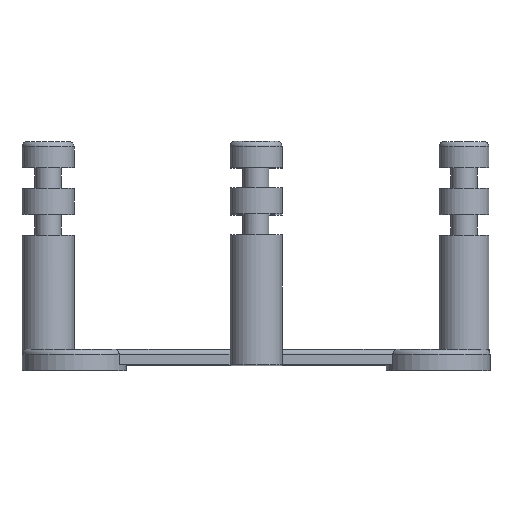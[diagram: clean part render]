
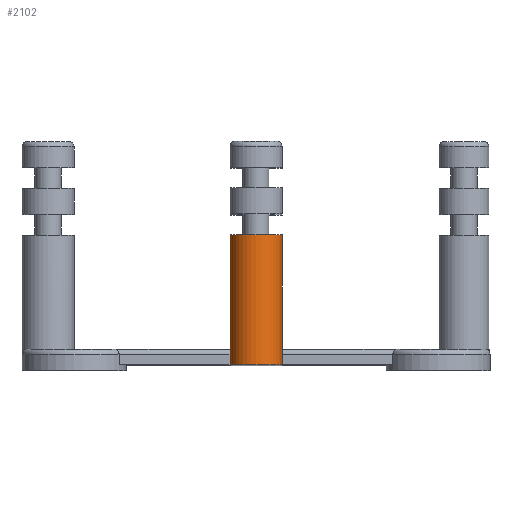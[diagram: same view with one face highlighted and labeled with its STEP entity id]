
A CAD part, top view. The second image highlights one B-rep face of the part: STEP entity #2102.
In plain terms, the highlighted cylindrical face has radius 5 mm (diameter 10 mm), a full revolution.
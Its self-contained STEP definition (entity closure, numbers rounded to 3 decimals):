
#52=B_SPLINE_CURVE_WITH_KNOTS('',3,(#3611,#3612,#3613,#3614,#3615,#3616),
 .UNSPECIFIED.,.F.,.F.,(4,2,4),(0.698,0.843,1.018),
 .UNSPECIFIED.);
#59=B_SPLINE_CURVE_WITH_KNOTS('',3,(#3739,#3740,#3741,#3742,#3743,#3744),
 .UNSPECIFIED.,.F.,.F.,(4,2,4),(0.,0.175,0.32),
 .UNSPECIFIED.);
#239=LINE('',#3670,#387);
#254=LINE('',#3756,#402);
#275=LINE('',#3921,#423);
#387=VECTOR('',#2773,10.);
#402=VECTOR('',#2818,10.);
#423=VECTOR('',#3025,5.);
#477=CYLINDRICAL_SURFACE('',#2375,5.);
#593=FACE_OUTER_BOUND('',#733,.T.);
#733=EDGE_LOOP('',(#1944,#1945,#1946,#1947,#1948,#1949,#1950,#1951,#1952));
#769=CIRCLE('',#2182,5.);
#841=CIRCLE('',#2344,5.);
#852=CIRCLE('',#2367,5.);
#899=VERTEX_POINT('',#3185);
#900=VERTEX_POINT('',#3187);
#989=VERTEX_POINT('',#3609);
#994=VERTEX_POINT('',#3668);
#1003=VERTEX_POINT('',#3738);
#1006=VERTEX_POINT('',#3755);
#1046=VERTEX_POINT('',#3867);
#1117=EDGE_CURVE('',#899,#900,#769,.T.);
#1252=EDGE_CURVE('',#989,#899,#52,.F.);
#1262=EDGE_CURVE('',#989,#994,#239,.T.);
#1280=EDGE_CURVE('',#900,#1003,#59,.F.);
#1286=EDGE_CURVE('',#1006,#1003,#254,.T.);
#1336=EDGE_CURVE('',#1046,#1046,#841,.T.);
#1351=EDGE_CURVE('',#994,#1006,#852,.T.);
#1361=EDGE_CURVE('',#1046,#1003,#275,.T.);
#1944=ORIENTED_EDGE('',*,*,#1336,.T.);
#1945=ORIENTED_EDGE('',*,*,#1361,.T.);
#1946=ORIENTED_EDGE('',*,*,#1280,.F.);
#1947=ORIENTED_EDGE('',*,*,#1117,.F.);
#1948=ORIENTED_EDGE('',*,*,#1252,.F.);
#1949=ORIENTED_EDGE('',*,*,#1262,.T.);
#1950=ORIENTED_EDGE('',*,*,#1351,.T.);
#1951=ORIENTED_EDGE('',*,*,#1286,.T.);
#1952=ORIENTED_EDGE('',*,*,#1361,.F.);
#2102=ADVANCED_FACE('',(#593),#477,.T.);
#2182=AXIS2_PLACEMENT_3D('',#3188,#2515,#2516);
#2344=AXIS2_PLACEMENT_3D('',#3868,#2951,#2952);
#2367=AXIS2_PLACEMENT_3D('',#3905,#3001,#3002);
#2375=AXIS2_PLACEMENT_3D('',#3920,#3023,#3024);
#2515=DIRECTION('center_axis',(0.,-1.,0.));
#2516=DIRECTION('ref_axis',(-1.,0.,0.));
#2773=DIRECTION('',(0.,-1.,0.));
#2818=DIRECTION('',(0.,1.,0.));
#2951=DIRECTION('center_axis',(0.,-1.,0.));
#2952=DIRECTION('ref_axis',(-1.,0.,0.));
#3001=DIRECTION('center_axis',(0.,1.,0.));
#3002=DIRECTION('ref_axis',(0.707,0.,0.707));
#3023=DIRECTION('center_axis',(0.,1.,0.));
#3024=DIRECTION('ref_axis',(-1.,0.,0.));
#3025=DIRECTION('',(0.,-1.,0.));
#3185=CARTESIAN_POINT('',(-4.,3.,57.));
#3187=CARTESIAN_POINT('',(4.,3.,57.));
#3188=CARTESIAN_POINT('Origin',(0.,3.,60.));
#3609=CARTESIAN_POINT('',(-5.,2.,60.));
#3611=CARTESIAN_POINT('Ctrl Pts',(-4.,3.,57.));
#3612=CARTESIAN_POINT('Ctrl Pts',(-4.29,3.,57.386));
#3613=CARTESIAN_POINT('Ctrl Pts',(-4.553,2.861,57.883));
#3614=CARTESIAN_POINT('Ctrl Pts',(-4.894,2.521,58.835));
#3615=CARTESIAN_POINT('Ctrl Pts',(-5.,2.238,59.467));
#3616=CARTESIAN_POINT('Ctrl Pts',(-5.,2.,60.));
#3668=CARTESIAN_POINT('',(-5.,0.,60.));
#3670=CARTESIAN_POINT('',(-5.,0.,60.));
#3738=CARTESIAN_POINT('',(5.,2.,60.));
#3739=CARTESIAN_POINT('Ctrl Pts',(5.,2.,60.));
#3740=CARTESIAN_POINT('Ctrl Pts',(5.,2.238,59.467));
#3741=CARTESIAN_POINT('Ctrl Pts',(4.894,2.521,58.835));
#3742=CARTESIAN_POINT('Ctrl Pts',(4.553,2.861,57.883));
#3743=CARTESIAN_POINT('Ctrl Pts',(4.29,3.,57.386));
#3744=CARTESIAN_POINT('Ctrl Pts',(4.,3.,57.));
#3755=CARTESIAN_POINT('',(5.,0.,60.));
#3756=CARTESIAN_POINT('',(5.,0.,60.));
#3867=CARTESIAN_POINT('',(5.,25.,60.));
#3868=CARTESIAN_POINT('Origin',(0.,25.,60.));
#3905=CARTESIAN_POINT('Origin',(0.,0.,60.));
#3920=CARTESIAN_POINT('Origin',(0.,3.,60.));
#3921=CARTESIAN_POINT('',(5.,3.,60.));
